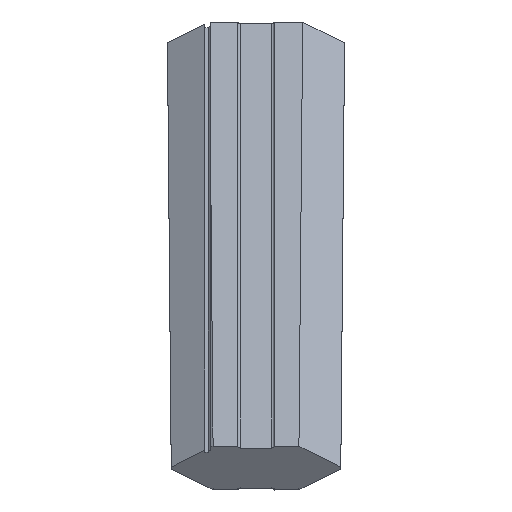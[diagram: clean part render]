
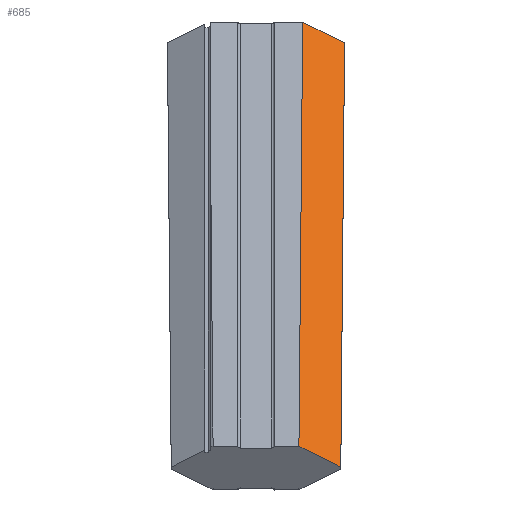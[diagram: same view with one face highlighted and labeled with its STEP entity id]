
A CAD part, isometric view. The second image highlights one B-rep face of the part: STEP entity #685.
In plain terms, the highlighted free-form (B-spline) face has degree [3, 1] with [4, 2] control points.
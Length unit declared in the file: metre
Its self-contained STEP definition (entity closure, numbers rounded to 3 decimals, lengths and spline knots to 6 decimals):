
#27=B_SPLINE_SURFACE_WITH_KNOTS('',3,1,((#1415,#1416),(#1417,#1418),(#1419,
#1420),(#1421,#1422)),.SURF_OF_LINEAR_EXTRUSION.,.F.,.F.,.F.,(4,4),(2,2),
(0.000021,1.000055),(0.,1.),.PIECEWISE_BEZIER_KNOTS.);
#256=ORIENTED_EDGE('',*,*,#391,.F.);
#257=ORIENTED_EDGE('',*,*,#436,.F.);
#258=ORIENTED_EDGE('',*,*,#414,.T.);
#259=ORIENTED_EDGE('',*,*,#426,.F.);
#391=EDGE_CURVE('',#496,#497,#547,.T.);
#414=EDGE_CURVE('',#520,#519,#554,.T.);
#426=EDGE_CURVE('',#497,#519,#559,.T.);
#436=EDGE_CURVE('',#520,#496,#565,.T.);
#496=VERTEX_POINT('',#974);
#497=VERTEX_POINT('',#979);
#519=VERTEX_POINT('',#1042);
#520=VERTEX_POINT('',#1047);
#547=B_SPLINE_CURVE_WITH_KNOTS('',3,(#975,#976,#977,#978),.UNSPECIFIED.,
 .F.,.F.,(4,4),(0.,0.009365),.UNSPECIFIED.);
#554=B_SPLINE_CURVE_WITH_KNOTS('',3,(#1043,#1044,#1045,#1046),
 .UNSPECIFIED.,.F.,.F.,(4,4),(0.,0.009365),
 .UNSPECIFIED.);
#559=B_SPLINE_CURVE_WITH_KNOTS('',3,(#1171,#1172,#1173,#1174,#1175,#1176,
#1177),.UNSPECIFIED.,.F.,.F.,(4,1,1,1,4),(0.70605,0.747259,
0.788469,0.829678,0.870887),.UNSPECIFIED.);
#565=B_SPLINE_CURVE_WITH_KNOTS('',3,(#1423,#1424,#1425,#1426,#1427,#1428,
#1429,#1430,#1431,#1432,#1433,#1434,#1435,#1436,#1437,#1438,#1439,#1440,
#1441,#1442,#1443,#1444,#1445,#1446,#1447,#1448,#1449,#1450,#1451,#1452,
#1453,#1454,#1455,#1456,#1457,#1458,#1459,#1460,#1461,#1462,#1463,#1464,
#1465,#1466,#1467,#1468,#1469,#1470,#1471,#1472,#1473,#1474,#1475,#1476,
#1477,#1478,#1479,#1480,#1481,#1482,#1483),.UNSPECIFIED.,.F.,.F.,(4,1,1,
1,1,1,1,1,1,1,1,1,1,1,1,1,1,1,1,1,1,1,1,1,1,1,1,1,1,1,1,1,1,1,1,1,1,1,1,
1,1,1,1,1,1,1,1,1,1,1,1,1,1,1,1,1,1,1,4),(0.484239,0.488164,
0.492089,0.494052,0.496014,0.497977,
0.498958,0.499449,0.49994,0.500921,
0.501902,0.503865,0.505827,0.50779,
0.511715,0.51564,0.52349,0.53134,
0.53919,0.54704,0.56274,0.57844,
0.58629,0.59414,0.60199,0.60984,
0.613765,0.61769,0.621615,0.623578,
0.624068,0.624559,0.62505,0.625295,
0.62554,0.626521,0.627503,0.629465,
0.631428,0.63339,0.637315,0.64124,
0.645165,0.64909,0.65694,0.66479,
0.67264,0.676565,0.68049,0.684415,
0.686378,0.687359,0.68834,0.690303,
0.692266,0.696191,0.704041,0.719741,
0.735441),.UNSPECIFIED.);
#590=EDGE_LOOP('',(#256,#257,#258,#259));
#629=FACE_BOUND('',#590,.T.);
#685=ADVANCED_FACE('',(#629),#27,.T.);
#974=CARTESIAN_POINT('',(0.26509,0.302368,0.0045));
#975=CARTESIAN_POINT('',(0.26509,0.302368,0.0045));
#976=CARTESIAN_POINT('',(0.266971,0.300487,0.002866));
#977=CARTESIAN_POINT('',(0.268852,0.298606,0.001232));
#978=CARTESIAN_POINT('',(0.270733,0.296725,-0.000402));
#979=CARTESIAN_POINT('',(0.270733,0.296725,-0.000402));
#1042=CARTESIAN_POINT('',(0.171232,0.198236,-0.000402));
#1043=CARTESIAN_POINT('',(0.16559,0.203879,0.0045));
#1044=CARTESIAN_POINT('',(0.167471,0.201998,0.002866));
#1045=CARTESIAN_POINT('',(0.169351,0.200117,0.001232));
#1046=CARTESIAN_POINT('',(0.171232,0.198236,-0.000402));
#1047=CARTESIAN_POINT('',(0.16559,0.203879,0.0045));
#1171=CARTESIAN_POINT('',(0.270733,0.296725,-0.000402));
#1172=CARTESIAN_POINT('',(0.264682,0.290735,-0.000402));
#1173=CARTESIAN_POINT('',(0.251389,0.277601,-0.000402));
#1174=CARTESIAN_POINT('',(0.227698,0.25421,-0.000402));
#1175=CARTESIAN_POINT('',(0.200661,0.227468,-0.000402));
#1176=CARTESIAN_POINT('',(0.181125,0.208079,-0.000402));
#1177=CARTESIAN_POINT('',(0.171232,0.198236,-0.000402));
#1415=CARTESIAN_POINT('',(0.265611,0.303086,0.004589));
#1416=CARTESIAN_POINT('',(0.271364,0.297282,-0.000431));
#1417=CARTESIAN_POINT('',(0.232055,0.269837,0.004575));
#1418=CARTESIAN_POINT('',(0.237808,0.264033,-0.000445));
#1419=CARTESIAN_POINT('',(0.198474,0.236612,0.004504));
#1420=CARTESIAN_POINT('',(0.204227,0.230808,-0.000516));
#1421=CARTESIAN_POINT('',(0.164942,0.203339,0.004546));
#1422=CARTESIAN_POINT('',(0.170695,0.197535,-0.000474));
#1423=CARTESIAN_POINT('',(0.16559,0.203879,0.0045));
#1424=CARTESIAN_POINT('',(0.166138,0.204424,0.0045));
#1425=CARTESIAN_POINT('',(0.167236,0.205516,0.0045));
#1426=CARTESIAN_POINT('',(0.168615,0.206888,0.0045));
#1427=CARTESIAN_POINT('',(0.169721,0.207988,0.0045));
#1428=CARTESIAN_POINT('',(0.170554,0.208816,0.0045));
#1429=CARTESIAN_POINT('',(0.171247,0.209505,0.0045));
#1430=CARTESIAN_POINT('',(0.171736,0.209992,0.0045));
#1431=CARTESIAN_POINT('',(0.172011,0.210265,0.0045));
#1432=CARTESIAN_POINT('',(0.172305,0.210556,0.0045));
#1433=CARTESIAN_POINT('',(0.172543,0.210793,0.0045));
#1434=CARTESIAN_POINT('',(0.172985,0.211233,0.0045));
#1435=CARTESIAN_POINT('',(0.17352,0.211764,0.0045));
#1436=CARTESIAN_POINT('',(0.174174,0.212414,0.0045));
#1437=CARTESIAN_POINT('',(0.175048,0.213282,0.0045));
#1438=CARTESIAN_POINT('',(0.176151,0.214378,0.0045));
#1439=CARTESIAN_POINT('',(0.177935,0.21615,0.0045));
#1440=CARTESIAN_POINT('',(0.180203,0.218402,0.0045));
#1441=CARTESIAN_POINT('',(0.182985,0.221162,0.0045));
#1442=CARTESIAN_POINT('',(0.185826,0.223981,0.0045));
#1443=CARTESIAN_POINT('',(0.189696,0.227818,0.0045));
#1444=CARTESIAN_POINT('',(0.194683,0.232761,0.0045));
#1445=CARTESIAN_POINT('',(0.199871,0.237899,0.0045));
#1446=CARTESIAN_POINT('',(0.204141,0.242126,0.0045));
#1447=CARTESIAN_POINT('',(0.207404,0.245355,0.0045));
#1448=CARTESIAN_POINT('',(0.210727,0.248643,0.0045));
#1449=CARTESIAN_POINT('',(0.213546,0.251432,0.0045));
#1450=CARTESIAN_POINT('',(0.215832,0.253692,0.0045));
#1451=CARTESIAN_POINT('',(0.217561,0.255401,0.0045));
#1452=CARTESIAN_POINT('',(0.219017,0.25684,0.0045));
#1453=CARTESIAN_POINT('',(0.219964,0.257777,0.0045));
#1454=CARTESIAN_POINT('',(0.220408,0.258215,0.0045));
#1455=CARTESIAN_POINT('',(0.220619,0.258425,0.0045));
#1456=CARTESIAN_POINT('',(0.22083,0.258632,0.0045));
#1457=CARTESIAN_POINT('',(0.22089,0.258692,0.0045));
#1458=CARTESIAN_POINT('',(0.221009,0.25881,0.0045));
#1459=CARTESIAN_POINT('',(0.221179,0.258978,0.0045));
#1460=CARTESIAN_POINT('',(0.221495,0.25929,0.0045));
#1461=CARTESIAN_POINT('',(0.2219,0.25969,0.0045));
#1462=CARTESIAN_POINT('',(0.222407,0.260191,0.0045));
#1463=CARTESIAN_POINT('',(0.223108,0.260884,0.0045));
#1464=CARTESIAN_POINT('',(0.224033,0.261798,0.0045));
#1465=CARTESIAN_POINT('',(0.225222,0.262973,0.0045));
#1466=CARTESIAN_POINT('',(0.226489,0.264225,0.0045));
#1467=CARTESIAN_POINT('',(0.228283,0.265998,0.0045));
#1468=CARTESIAN_POINT('',(0.230722,0.268406,0.0045));
#1469=CARTESIAN_POINT('',(0.233961,0.271606,0.0045));
#1470=CARTESIAN_POINT('',(0.236921,0.27453,0.0045));
#1471=CARTESIAN_POINT('',(0.239446,0.277024,0.0045));
#1472=CARTESIAN_POINT('',(0.241417,0.27897,0.0045));
#1473=CARTESIAN_POINT('',(0.243131,0.280663,0.0045));
#1474=CARTESIAN_POINT('',(0.244351,0.281869,0.0045));
#1475=CARTESIAN_POINT('',(0.24508,0.282588,0.0045));
#1476=CARTESIAN_POINT('',(0.245734,0.283235,0.0045));
#1477=CARTESIAN_POINT('',(0.246551,0.284041,0.0045));
#1478=CARTESIAN_POINT('',(0.247835,0.285309,0.0045));
#1479=CARTESIAN_POINT('',(0.250033,0.287481,0.0045));
#1480=CARTESIAN_POINT('',(0.254228,0.291626,0.0045));
#1481=CARTESIAN_POINT('',(0.25965,0.296985,0.0045));
#1482=CARTESIAN_POINT('',(0.263379,0.300674,0.0045));
#1483=CARTESIAN_POINT('',(0.26509,0.302368,0.0045));
